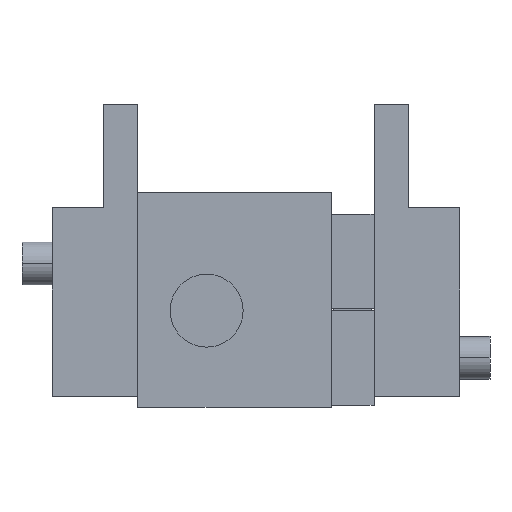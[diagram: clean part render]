
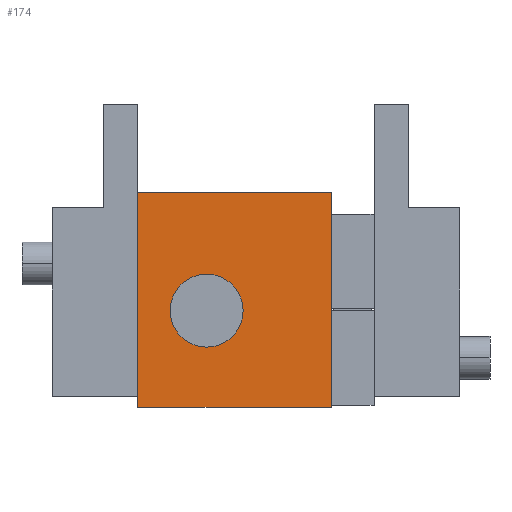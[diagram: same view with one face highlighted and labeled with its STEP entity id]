
A CAD part, top view. The second image highlights one B-rep face of the part: STEP entity #174.
In plain terms, the highlighted planar face has unit normal (0, 0, 1).
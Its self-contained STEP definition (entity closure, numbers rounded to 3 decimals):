
#165 = ORIENTED_EDGE ( 'NONE', *, *, #2045, .F. ) ;
#168 = ORIENTED_EDGE ( 'NONE', *, *, #2171, .F. ) ;
#174 = ADVANCED_FACE ( 'NONE', ( #3317, #3375 ), #3325, .F. ) ;
#1997 = VERTEX_POINT ( 'NONE', #3935 ) ;
#2004 = EDGE_CURVE ( 'NONE', #2070, #1997, #3974, .T. ) ;
#2011 = ORIENTED_EDGE ( 'NONE', *, *, #2117, .T. ) ;
#2015 = EDGE_LOOP ( 'NONE', ( #165, #168 ) ) ;
#2016 = EDGE_CURVE ( 'NONE', #1997, #2123, #3951, .T. ) ;
#2020 = EDGE_LOOP ( 'NONE', ( #2011, #2036, #2032, #2034 ) ) ;
#2032 = ORIENTED_EDGE ( 'NONE', *, *, #2004, .T. ) ;
#2034 = ORIENTED_EDGE ( 'NONE', *, *, #2016, .T. ) ;
#2036 = ORIENTED_EDGE ( 'NONE', *, *, #2115, .T. ) ;
#2045 = EDGE_CURVE ( 'NONE', #2166, #2181, #3995, .T. ) ;
#2067 = VERTEX_POINT ( 'NONE', #4007 ) ;
#2070 = VERTEX_POINT ( 'NONE', #4018 ) ;
#2115 = EDGE_CURVE ( 'NONE', #2067, #2070, #4122, .T. ) ;
#2117 = EDGE_CURVE ( 'NONE', #2123, #2067, #4114, .T. ) ;
#2123 = VERTEX_POINT ( 'NONE', #4108 ) ;
#2166 = VERTEX_POINT ( 'NONE', #4213 ) ;
#2171 = EDGE_CURVE ( 'NONE', #2181, #2166, #4209, .T. ) ;
#2181 = VERTEX_POINT ( 'NONE', #4192 ) ;
#3317 = FACE_BOUND ( 'NONE', #2015, .T. ) ;
#3325 = PLANE ( 'NONE',  #3379 ) ;
#3362 = DIRECTION ( 'NONE',  ( -1., 0., 0. ) ) ;
#3363 = DIRECTION ( 'NONE',  ( 0., 0., -1. ) ) ;
#3364 = CARTESIAN_POINT ( 'NONE',  ( 0., 50., 30. ) ) ;
#3375 = FACE_OUTER_BOUND ( 'NONE', #2020, .T. ) ;
#3379 = AXIS2_PLACEMENT_3D ( 'NONE', #3364, #3363, #3362 ) ;
#3935 = CARTESIAN_POINT ( 'NONE',  ( 45., 50., 30. ) ) ;
#3948 = DIRECTION ( 'NONE',  ( -1., 0., 0. ) ) ;
#3949 = VECTOR ( 'NONE', #3948, 1000. ) ;
#3950 = CARTESIAN_POINT ( 'NONE',  ( 0., 50., 30. ) ) ;
#3951 = LINE ( 'NONE', #3950, #3949 ) ;
#3970 = DIRECTION ( 'NONE',  ( 0., 1., 0. ) ) ;
#3971 = VECTOR ( 'NONE', #3970, 1000. ) ;
#3972 = CARTESIAN_POINT ( 'NONE',  ( 45., 0., 30. ) ) ;
#3974 = LINE ( 'NONE', #3972, #3971 ) ;
#3995 = CIRCLE ( 'NONE', #4030, 8.5 ) ;
#4007 = CARTESIAN_POINT ( 'NONE',  ( 0., 0., 30. ) ) ;
#4018 = CARTESIAN_POINT ( 'NONE',  ( 45., 0., 30. ) ) ;
#4027 = DIRECTION ( 'NONE',  ( 1., 0., 0. ) ) ;
#4028 = DIRECTION ( 'NONE',  ( 0., 0., 1. ) ) ;
#4029 = CARTESIAN_POINT ( 'NONE',  ( 16., 22.5, 30. ) ) ;
#4030 = AXIS2_PLACEMENT_3D ( 'NONE', #4029, #4028, #4027 ) ;
#4108 = CARTESIAN_POINT ( 'NONE',  ( 0., 50., 30. ) ) ;
#4111 = DIRECTION ( 'NONE',  ( 0., -1., 0. ) ) ;
#4112 = VECTOR ( 'NONE', #4111, 1000. ) ;
#4113 = CARTESIAN_POINT ( 'NONE',  ( 0., 0., 30. ) ) ;
#4114 = LINE ( 'NONE', #4113, #4112 ) ;
#4118 = DIRECTION ( 'NONE',  ( 1., 0., 0. ) ) ;
#4119 = VECTOR ( 'NONE', #4118, 1000. ) ;
#4121 = CARTESIAN_POINT ( 'NONE',  ( 0., 0., 30. ) ) ;
#4122 = LINE ( 'NONE', #4121, #4119 ) ;
#4160 = AXIS2_PLACEMENT_3D ( 'NONE', #4204, #4203, #4202 ) ;
#4192 = CARTESIAN_POINT ( 'NONE',  ( 7.5, 22.5, 30. ) ) ;
#4202 = DIRECTION ( 'NONE',  ( 1., 0., 0. ) ) ;
#4203 = DIRECTION ( 'NONE',  ( 0., 0., 1. ) ) ;
#4204 = CARTESIAN_POINT ( 'NONE',  ( 16., 22.5, 30. ) ) ;
#4209 = CIRCLE ( 'NONE', #4160, 8.5 ) ;
#4213 = CARTESIAN_POINT ( 'NONE',  ( 24.5, 22.5, 30. ) ) ;
